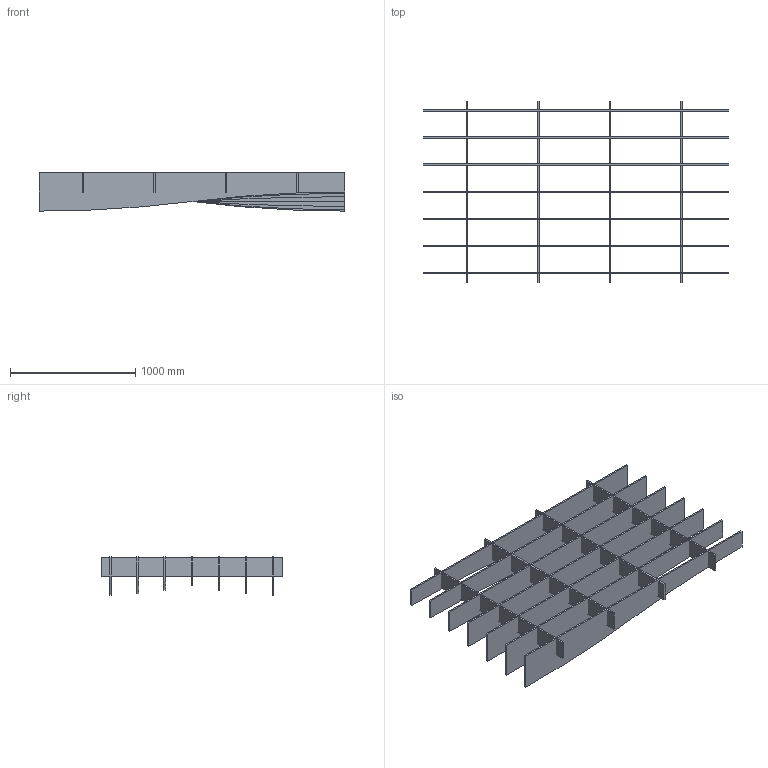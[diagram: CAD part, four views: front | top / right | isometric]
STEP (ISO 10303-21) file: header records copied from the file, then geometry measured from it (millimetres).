
FILE_DESCRIPTION(/* description */ (''),/* implementation_level */ '2;1');
FILE_NAME(/* name */ 'Topo Swell Full Frame Simplified',/* time_stamp */ '2026-04-13T11:35:31-05:00',/* author */ (''),/* organization */ (''),/* preprocessor_version */ 'ST-DEVELOPER v19.2',/* originating_system */ 'Rhino 8.29',/* authorisation */ '');
FILE_SCHEMA (('CONFIG_CONTROL_DESIGN'));
Length unit declared in the file: inch
Products named in the file (1): Document
Bounding box: 2438.4 x 1450.61 x 304.8 mm (x, y, z)
Volume: 60784955.3 mm3; surface area: 10209811.9 mm2
Topology: 11 solids, 11 shells, 72 faces, 150 edges, 100 vertices
Faces by surface type: plane 60, cylinder 12
Entity records: 1825 total; most frequent: CARTESIAN_POINT 498, ORIENTED_EDGE 300, EDGE_CURVE 150, DIRECTION 124, B_SPLINE_CURVE_WITH_KNOTS 111, VERTEX_POINT 100, AXIS2_PLACEMENT_3D 98, ADVANCED_FACE 72
